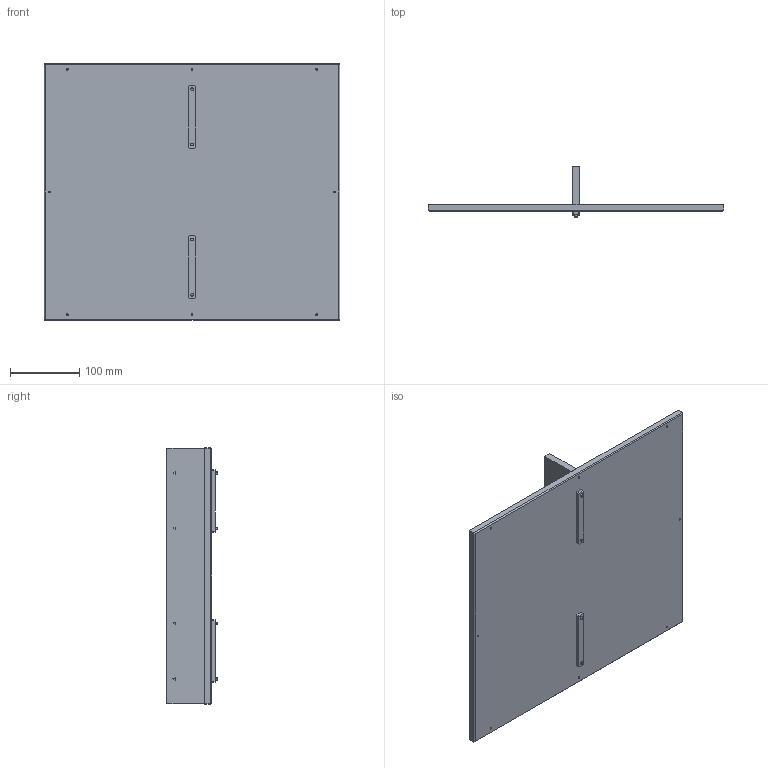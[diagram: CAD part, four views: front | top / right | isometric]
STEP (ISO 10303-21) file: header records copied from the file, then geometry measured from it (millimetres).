
FILE_DESCRIPTION (( 'STEP AP214' ), '1' );
FILE_NAME ('Asyril_FLAT VIBRATING PLATE 530 SEP - H68_000.104.973_(option).STEP', '2021-10-18T06:48:26', ( '' ), ( '' ), 'SwSTEP 2.0', 'SolidWorks 2017', '' );
FILE_SCHEMA (( 'AUTOMOTIVE_DESIGN' ));
Length unit declared in the file: millimetre
Products named in the file (1): Asyril_FLAT VIBRATING PLATE 530 SEP - H68_000.104.973_(option)
Bounding box: 426.8 x 72.5 x 369.8 mm (x, y, z)
Volume: 1784847.2 mm3; surface area: 375704.6 mm2
Topology: 1 solids, 1 shells, 105 faces, 232 edges, 152 vertices
Faces by surface type: plane 57, cylinder 40, torus 8
Entity records: 3777 total; most frequent: DIRECTION 540, CARTESIAN_POINT 490, ORIENTED_EDGE 464, EDGE_CURVE 232, AXIS2_PLACEMENT_3D 202, VERTEX_POINT 152, LINE 136, VECTOR 136
